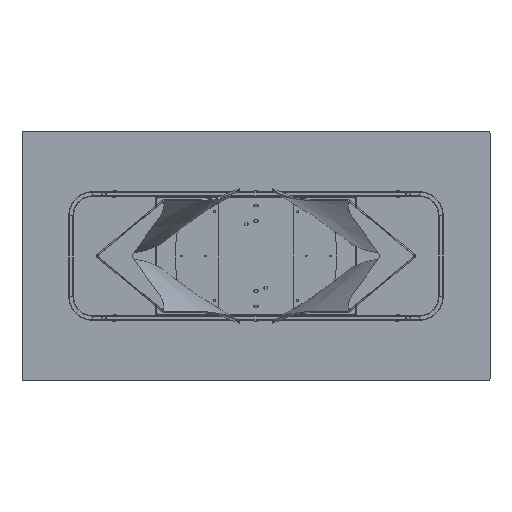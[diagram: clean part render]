
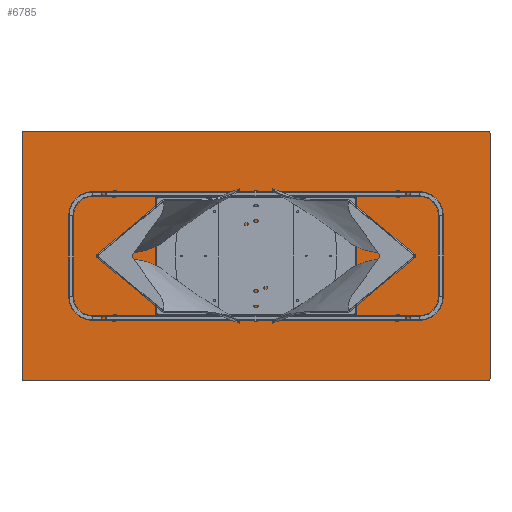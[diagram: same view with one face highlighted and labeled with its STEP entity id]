
A CAD part, front view. The second image highlights one B-rep face of the part: STEP entity #6785.
In plain terms, the highlighted planar face has unit normal (0, -1, 0).
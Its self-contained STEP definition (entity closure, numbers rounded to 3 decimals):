
#85 = VECTOR ( 'NONE', #2321, 1000. ) ;
#580 = DIRECTION ( 'NONE',  ( 1., 0., 0. ) ) ;
#656 = DIRECTION ( 'NONE',  ( 0., 0., 1. ) ) ;
#759 = DIRECTION ( 'NONE',  ( 0., 0., 1. ) ) ;
#841 = LINE ( 'NONE', #7899, #85 ) ;
#1270 = EDGE_LOOP ( 'NONE', ( #5339, #9537, #18344, #2013, #9814, #7596, #9038, #6500 ) ) ;
#1346 = CARTESIAN_POINT ( 'NONE',  ( -995., 0., 530. ) ) ;
#1948 = LINE ( 'NONE', #12531, #14958 ) ;
#1961 = VERTEX_POINT ( 'NONE', #22069 ) ;
#2013 = ORIENTED_EDGE ( 'NONE', *, *, #16711, .T. ) ;
#2321 = DIRECTION ( 'NONE',  ( -1., 0., 0. ) ) ;
#2353 = VERTEX_POINT ( 'NONE', #16590 ) ;
#3643 = EDGE_CURVE ( 'NONE', #13186, #13414, #11653, .T. ) ;
#3811 = DIRECTION ( 'NONE',  ( 0., 1., 0. ) ) ;
#3887 = LINE ( 'NONE', #6045, #9058 ) ;
#4212 = VERTEX_POINT ( 'NONE', #16650 ) ;
#4353 = AXIS2_PLACEMENT_3D ( 'NONE', #10899, #6110, #759 ) ;
#4731 = VECTOR ( 'NONE', #656, 1000. ) ;
#4975 = CARTESIAN_POINT ( 'NONE',  ( -1000., 0., 525. ) ) ;
#5339 = ORIENTED_EDGE ( 'NONE', *, *, #16653, .F. ) ;
#5389 = CARTESIAN_POINT ( 'NONE',  ( 0., 0., 0. ) ) ;
#5490 = AXIS2_PLACEMENT_3D ( 'NONE', #7075, #19466, #10823 ) ;
#5511 = FACE_OUTER_BOUND ( 'NONE', #1270, .T. ) ;
#6045 = CARTESIAN_POINT ( 'NONE',  ( -1000., 0., 530. ) ) ;
#6110 = DIRECTION ( 'NONE',  ( 0., -1., 0. ) ) ;
#6500 = ORIENTED_EDGE ( 'NONE', *, *, #3643, .T. ) ;
#6785 = ADVANCED_FACE ( 'NONE', ( #5511 ), #19270, .F. ) ;
#6950 = DIRECTION ( 'NONE',  ( 0., 0., 1. ) ) ;
#7075 = CARTESIAN_POINT ( 'NONE',  ( -995., 0., 525. ) ) ;
#7420 = DIRECTION ( 'NONE',  ( 0., 0., -1. ) ) ;
#7428 = CARTESIAN_POINT ( 'NONE',  ( 995., 0., -530. ) ) ;
#7596 = ORIENTED_EDGE ( 'NONE', *, *, #9029, .T. ) ;
#7899 = CARTESIAN_POINT ( 'NONE',  ( -1000., 0., -530. ) ) ;
#8293 = VERTEX_POINT ( 'NONE', #1346 ) ;
#8949 = AXIS2_PLACEMENT_3D ( 'NONE', #5389, #3811, #21433 ) ;
#9029 = EDGE_CURVE ( 'NONE', #2353, #17768, #14436, .T. ) ;
#9038 = ORIENTED_EDGE ( 'NONE', *, *, #18349, .F. ) ;
#9058 = VECTOR ( 'NONE', #580, 1000. ) ;
#9421 = VERTEX_POINT ( 'NONE', #4975 ) ;
#9537 = ORIENTED_EDGE ( 'NONE', *, *, #14783, .T. ) ;
#9663 = LINE ( 'NONE', #16588, #4731 ) ;
#9814 = ORIENTED_EDGE ( 'NONE', *, *, #15856, .F. ) ;
#10823 = DIRECTION ( 'NONE',  ( 0., 0., 1. ) ) ;
#10899 = CARTESIAN_POINT ( 'NONE',  ( 995., 0., 525. ) ) ;
#11278 = AXIS2_PLACEMENT_3D ( 'NONE', #12280, #19331, #12169 ) ;
#11653 = CIRCLE ( 'NONE', #11278, 5. ) ;
#12169 = DIRECTION ( 'NONE',  ( 0., 0., 1. ) ) ;
#12280 = CARTESIAN_POINT ( 'NONE',  ( 995., 0., -525. ) ) ;
#12531 = CARTESIAN_POINT ( 'NONE',  ( 1000., 0., -530. ) ) ;
#13186 = VERTEX_POINT ( 'NONE', #7428 ) ;
#13414 = VERTEX_POINT ( 'NONE', #20900 ) ;
#13779 = DIRECTION ( 'NONE',  ( 0., -1., 0. ) ) ;
#14436 = CIRCLE ( 'NONE', #15165, 5. ) ;
#14463 = EDGE_CURVE ( 'NONE', #8293, #4212, #3887, .T. ) ;
#14783 = EDGE_CURVE ( 'NONE', #1961, #4212, #15614, .T. ) ;
#14958 = VECTOR ( 'NONE', #7420, 1000. ) ;
#15165 = AXIS2_PLACEMENT_3D ( 'NONE', #19114, #13779, #6950 ) ;
#15614 = CIRCLE ( 'NONE', #4353, 5. ) ;
#15856 = EDGE_CURVE ( 'NONE', #2353, #9421, #9663, .T. ) ;
#16588 = CARTESIAN_POINT ( 'NONE',  ( -1000., 0., -530. ) ) ;
#16590 = CARTESIAN_POINT ( 'NONE',  ( -1000., 0., -525. ) ) ;
#16650 = CARTESIAN_POINT ( 'NONE',  ( 995., 0., 530. ) ) ;
#16653 = EDGE_CURVE ( 'NONE', #1961, #13414, #1948, .T. ) ;
#16711 = EDGE_CURVE ( 'NONE', #8293, #9421, #20378, .T. ) ;
#17768 = VERTEX_POINT ( 'NONE', #20882 ) ;
#18344 = ORIENTED_EDGE ( 'NONE', *, *, #14463, .F. ) ;
#18349 = EDGE_CURVE ( 'NONE', #13186, #17768, #841, .T. ) ;
#19114 = CARTESIAN_POINT ( 'NONE',  ( -995., 0., -525. ) ) ;
#19270 = PLANE ( 'NONE',  #8949 ) ;
#19331 = DIRECTION ( 'NONE',  ( 0., -1., 0. ) ) ;
#19466 = DIRECTION ( 'NONE',  ( 0., -1., 0. ) ) ;
#20378 = CIRCLE ( 'NONE', #5490, 5. ) ;
#20882 = CARTESIAN_POINT ( 'NONE',  ( -995., 0., -530. ) ) ;
#20900 = CARTESIAN_POINT ( 'NONE',  ( 1000., 0., -525. ) ) ;
#21433 = DIRECTION ( 'NONE',  ( 0., 0., 1. ) ) ;
#22069 = CARTESIAN_POINT ( 'NONE',  ( 1000., 0., 525. ) ) ;
